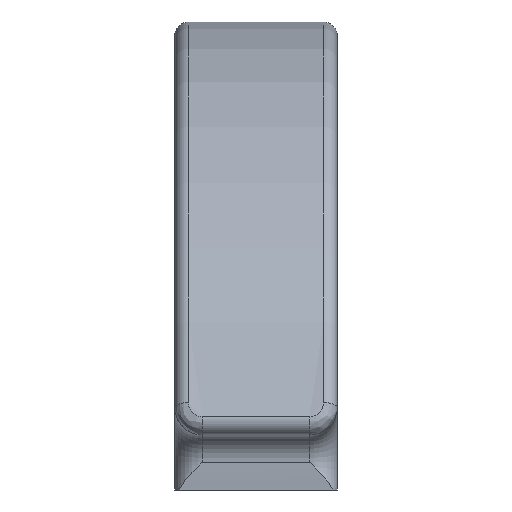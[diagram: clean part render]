
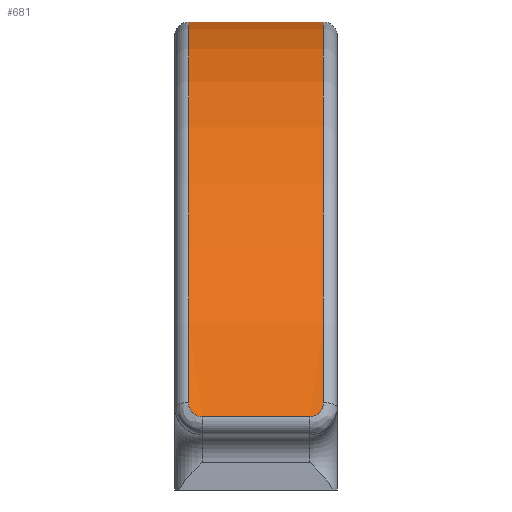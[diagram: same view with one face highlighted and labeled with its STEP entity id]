
A CAD part, left-side view. The second image highlights one B-rep face of the part: STEP entity #681.
In plain terms, the highlighted cylindrical face has radius 21 mm (diameter 42 mm), a partial arc.
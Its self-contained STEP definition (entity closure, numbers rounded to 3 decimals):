
#25=B_SPLINE_CURVE_WITH_KNOTS('',3,(#1132,#1133,#1134,#1135,#1136,#1137,
#1138,#1139,#1140,#1141,#1142,#1143,#1144,#1145,#1146,#1147,#1148,#1149,
#1150,#1151,#1152,#1153,#1154,#1155,#1156,#1157,#1158,#1159,#1160,#1161,
#1162,#1163,#1164,#1165,#1166,#1167,#1168,#1169,#1170,#1171,#1172,#1173,
#1174,#1175,#1176,#1177),.UNSPECIFIED.,.F.,.F.,(4,3,3,3,3,3,3,3,3,3,3,3,
3,3,3,4),(0.,0.,0.,0.,
0.,0.,0.,0.,
0.,0.,0.,0.,
0.001,0.001,0.001,0.001),
 .UNSPECIFIED.);
#26=B_SPLINE_CURVE_WITH_KNOTS('',3,(#1181,#1182,#1183,#1184,#1185,#1186,
#1187,#1188,#1189,#1190,#1191,#1192,#1193,#1194,#1195,#1196,#1197,#1198,
#1199),.UNSPECIFIED.,.F.,.F.,(4,3,3,3,3,3,4),(0.,0.,0.,
0.,0.001,0.001,0.001),
 .UNSPECIFIED.);
#62=FACE_OUTER_BOUND('',#104,.T.);
#104=EDGE_LOOP('',(#508,#509,#510,#511,#512,#513));
#166=LINE('',#1126,#217);
#168=LINE('',#1179,#219);
#217=VECTOR('',#902,1000.);
#219=VECTOR('',#908,1000.);
#256=CIRCLE('',#757,21.);
#257=CIRCLE('',#758,21.);
#320=VERTEX_POINT('',#1123);
#321=VERTEX_POINT('',#1125);
#322=VERTEX_POINT('',#1129);
#323=VERTEX_POINT('',#1131);
#324=VERTEX_POINT('',#1178);
#325=VERTEX_POINT('',#1180);
#394=EDGE_CURVE('',#320,#321,#166,.T.);
#396=EDGE_CURVE('',#322,#320,#256,.T.);
#397=EDGE_CURVE('',#323,#322,#25,.T.);
#398=EDGE_CURVE('',#324,#323,#168,.T.);
#399=EDGE_CURVE('',#325,#324,#26,.T.);
#400=EDGE_CURVE('',#321,#325,#257,.T.);
#508=ORIENTED_EDGE('',*,*,#394,.F.);
#509=ORIENTED_EDGE('',*,*,#396,.F.);
#510=ORIENTED_EDGE('',*,*,#397,.F.);
#511=ORIENTED_EDGE('',*,*,#398,.F.);
#512=ORIENTED_EDGE('',*,*,#399,.F.);
#513=ORIENTED_EDGE('',*,*,#400,.F.);
#657=CYLINDRICAL_SURFACE('',#756,21.);
#681=ADVANCED_FACE('',(#62),#657,.T.);
#756=AXIS2_PLACEMENT_3D('',#1128,#904,#905);
#757=AXIS2_PLACEMENT_3D('',#1130,#906,#907);
#758=AXIS2_PLACEMENT_3D('',#1200,#909,#910);
#902=DIRECTION('',(0.,-1.,0.));
#904=DIRECTION('center_axis',(0.,-1.,0.));
#905=DIRECTION('ref_axis',(0.,0.,1.));
#906=DIRECTION('center_axis',(0.,1.,0.));
#907=DIRECTION('ref_axis',(0.,0.,-1.));
#908=DIRECTION('',(0.,1.,0.));
#909=DIRECTION('center_axis',(0.,-1.,0.));
#910=DIRECTION('ref_axis',(0.,0.,-1.));
#1123=CARTESIAN_POINT('',(-8.5,5.4,0.));
#1125=CARTESIAN_POINT('',(-8.5,0.5,0.));
#1126=CARTESIAN_POINT('',(-8.5,5.9,0.));
#1128=CARTESIAN_POINT('Origin',(-8.5,5.9,-21.));
#1129=CARTESIAN_POINT('',(-28.238,5.4,-13.829));
#1130=CARTESIAN_POINT('Origin',(-8.5,5.4,-21.));
#1131=CARTESIAN_POINT('',(-28.416,4.9,-14.341));
#1132=CARTESIAN_POINT('Ctrl Pts',(-28.416,4.9,-14.341));
#1133=CARTESIAN_POINT('Ctrl Pts',(-28.416,4.928,-14.341));
#1134=CARTESIAN_POINT('Ctrl Pts',(-28.416,4.955,-14.339));
#1135=CARTESIAN_POINT('Ctrl Pts',(-28.414,4.982,-14.334));
#1136=CARTESIAN_POINT('Ctrl Pts',(-28.413,5.002,-14.331));
#1137=CARTESIAN_POINT('Ctrl Pts',(-28.411,5.022,-14.326));
#1138=CARTESIAN_POINT('Ctrl Pts',(-28.409,5.041,-14.321));
#1139=CARTESIAN_POINT('Ctrl Pts',(-28.408,5.052,-14.317));
#1140=CARTESIAN_POINT('Ctrl Pts',(-28.407,5.064,-14.313));
#1141=CARTESIAN_POINT('Ctrl Pts',(-28.406,5.075,-14.309));
#1142=CARTESIAN_POINT('Ctrl Pts',(-28.405,5.082,-14.306));
#1143=CARTESIAN_POINT('Ctrl Pts',(-28.404,5.09,-14.303));
#1144=CARTESIAN_POINT('Ctrl Pts',(-28.403,5.097,-14.3));
#1145=CARTESIAN_POINT('Ctrl Pts',(-28.402,5.103,-14.298));
#1146=CARTESIAN_POINT('Ctrl Pts',(-28.401,5.109,-14.295));
#1147=CARTESIAN_POINT('Ctrl Pts',(-28.4,5.114,-14.292));
#1148=CARTESIAN_POINT('Ctrl Pts',(-28.397,5.13,-14.284));
#1149=CARTESIAN_POINT('Ctrl Pts',(-28.394,5.145,-14.276));
#1150=CARTESIAN_POINT('Ctrl Pts',(-28.391,5.16,-14.267));
#1151=CARTESIAN_POINT('Ctrl Pts',(-28.39,5.168,-14.262));
#1152=CARTESIAN_POINT('Ctrl Pts',(-28.388,5.176,-14.256));
#1153=CARTESIAN_POINT('Ctrl Pts',(-28.386,5.184,-14.251));
#1154=CARTESIAN_POINT('Ctrl Pts',(-28.384,5.191,-14.246));
#1155=CARTESIAN_POINT('Ctrl Pts',(-28.382,5.199,-14.24));
#1156=CARTESIAN_POINT('Ctrl Pts',(-28.38,5.206,-14.235));
#1157=CARTESIAN_POINT('Ctrl Pts',(-28.378,5.213,-14.228));
#1158=CARTESIAN_POINT('Ctrl Pts',(-28.376,5.221,-14.222));
#1159=CARTESIAN_POINT('Ctrl Pts',(-28.374,5.228,-14.216));
#1160=CARTESIAN_POINT('Ctrl Pts',(-28.371,5.239,-14.206));
#1161=CARTESIAN_POINT('Ctrl Pts',(-28.367,5.249,-14.196));
#1162=CARTESIAN_POINT('Ctrl Pts',(-28.364,5.259,-14.186));
#1163=CARTESIAN_POINT('Ctrl Pts',(-28.363,5.26,-14.185));
#1164=CARTESIAN_POINT('Ctrl Pts',(-28.363,5.26,-14.184));
#1165=CARTESIAN_POINT('Ctrl Pts',(-28.363,5.261,-14.184));
#1166=CARTESIAN_POINT('Ctrl Pts',(-28.355,5.284,-14.159));
#1167=CARTESIAN_POINT('Ctrl Pts',(-28.346,5.304,-14.133));
#1168=CARTESIAN_POINT('Ctrl Pts',(-28.336,5.321,-14.105));
#1169=CARTESIAN_POINT('Ctrl Pts',(-28.326,5.338,-14.078));
#1170=CARTESIAN_POINT('Ctrl Pts',(-28.317,5.352,-14.05));
#1171=CARTESIAN_POINT('Ctrl Pts',(-28.306,5.364,-14.02));
#1172=CARTESIAN_POINT('Ctrl Pts',(-28.295,5.376,-13.988));
#1173=CARTESIAN_POINT('Ctrl Pts',(-28.283,5.386,-13.956));
#1174=CARTESIAN_POINT('Ctrl Pts',(-28.271,5.392,-13.923));
#1175=CARTESIAN_POINT('Ctrl Pts',(-28.26,5.397,-13.892));
#1176=CARTESIAN_POINT('Ctrl Pts',(-28.249,5.4,-13.861));
#1177=CARTESIAN_POINT('Ctrl Pts',(-28.238,5.4,-13.829));
#1178=CARTESIAN_POINT('',(-28.416,1.,-14.341));
#1179=CARTESIAN_POINT('',(-28.416,5.9,-14.341));
#1180=CARTESIAN_POINT('',(-28.238,0.5,-13.829));
#1181=CARTESIAN_POINT('Ctrl Pts',(-28.238,0.5,-13.829));
#1182=CARTESIAN_POINT('Ctrl Pts',(-28.256,0.5,-13.878));
#1183=CARTESIAN_POINT('Ctrl Pts',(-28.273,0.507,-13.927));
#1184=CARTESIAN_POINT('Ctrl Pts',(-28.29,0.521,-13.974));
#1185=CARTESIAN_POINT('Ctrl Pts',(-28.308,0.535,-14.026));
#1186=CARTESIAN_POINT('Ctrl Pts',(-28.325,0.558,-14.075));
#1187=CARTESIAN_POINT('Ctrl Pts',(-28.341,0.588,-14.119));
#1188=CARTESIAN_POINT('Ctrl Pts',(-28.349,0.603,-14.142));
#1189=CARTESIAN_POINT('Ctrl Pts',(-28.356,0.62,-14.164));
#1190=CARTESIAN_POINT('Ctrl Pts',(-28.363,0.639,-14.184));
#1191=CARTESIAN_POINT('Ctrl Pts',(-28.38,0.684,-14.232));
#1192=CARTESIAN_POINT('Ctrl Pts',(-28.393,0.74,-14.271));
#1193=CARTESIAN_POINT('Ctrl Pts',(-28.402,0.802,-14.299));
#1194=CARTESIAN_POINT('Ctrl Pts',(-28.409,0.849,-14.32));
#1195=CARTESIAN_POINT('Ctrl Pts',(-28.414,0.9,-14.334));
#1196=CARTESIAN_POINT('Ctrl Pts',(-28.416,0.952,-14.339));
#1197=CARTESIAN_POINT('Ctrl Pts',(-28.416,0.968,-14.341));
#1198=CARTESIAN_POINT('Ctrl Pts',(-28.416,0.984,-14.341));
#1199=CARTESIAN_POINT('Ctrl Pts',(-28.416,1.,-14.341));
#1200=CARTESIAN_POINT('Origin',(-8.5,0.5,-21.));
